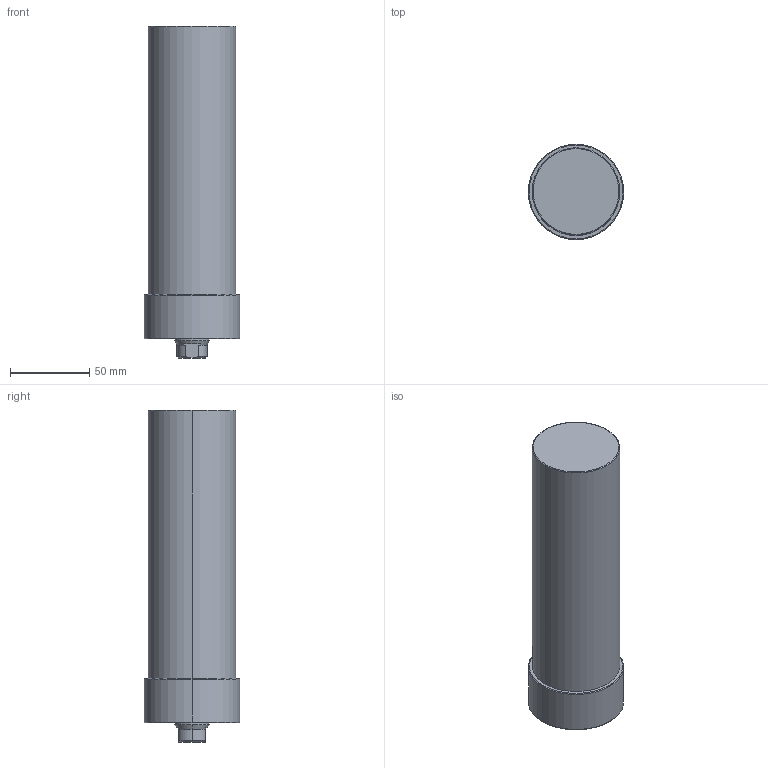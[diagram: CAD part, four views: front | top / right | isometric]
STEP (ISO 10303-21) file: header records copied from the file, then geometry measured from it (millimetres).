
FILE_DESCRIPTION (( 'STEP AP203' ), '1' );
FILE_NAME ('CLLU-055GA-140.STEP', '2020-01-06T07:10:50', ( '' ), ( '' ), 'SwSTEP 2.0', 'SolidWorks 2015', '' );
FILE_SCHEMA (( 'CONFIG_CONTROL_DESIGN' ));
Length unit declared in the file: millimetre
Products named in the file (1): CLLU-055GA-140
Bounding box: 60 x 60 x 209 mm (x, y, z)
Volume: 481016.2 mm3; surface area: 42523.7 mm2
Topology: 1 solids, 1 shells, 64 faces, 143 edges, 80 vertices
Faces by surface type: cone 25, cylinder 23, plane 10, torus 6
Entity records: 1805 total; most frequent: DIRECTION 330, CARTESIAN_POINT 318, ORIENTED_EDGE 266, AXIS2_PLACEMENT_3D 140, EDGE_CURVE 133, VERTEX_POINT 80, CIRCLE 75, EDGE_LOOP 73
